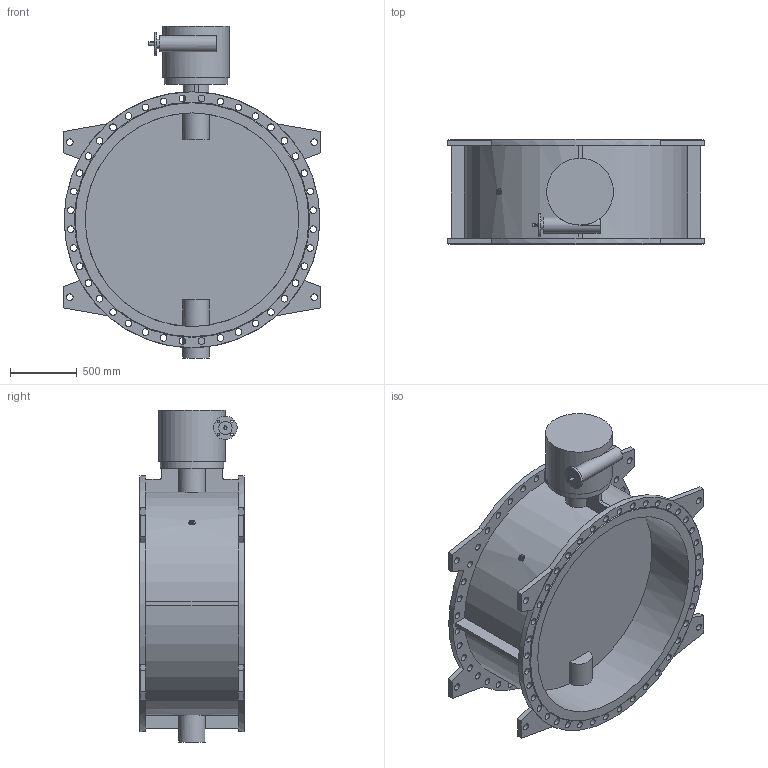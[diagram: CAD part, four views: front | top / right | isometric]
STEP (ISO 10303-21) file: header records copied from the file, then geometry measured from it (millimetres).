
FILE_DESCRIPTION(('STEP AP203'), '1');
FILE_NAME('Çàòâîð 023F.Z DN1600 PN10_ð-ð_ôë', '', ('UNSPECIFIED'), ('UNSPECIFIED'), 'ASCON STEP Converter 1.6', 'ASCON Math Kernel', '');
FILE_SCHEMA(('CONFIG_CONTROL_DESIGN'));
Length unit declared in the file: millimetre
Bounding box: 1930 x 790 x 2485 mm (x, y, z)
Volume: 536206472.7 mm3; surface area: 17780975.3 mm2
Topology: 1 solids, 1 shells, 243 faces, 628 edges, 418 vertices
Faces by surface type: cylinder 138, plane 103, cone 2
Full cylindrical faces by diameter (mm): 18 x4, 24 x1, 33 x8, 39 x8, 50 x88, 70 x1, 100 x1, 120 x1, 175 x1, 200 x1, 475 x1, 500 x1, 1600 x2, 1915 x2
Entity records: 10311 total; most frequent: CARTESIAN_POINT 2280, DIRECTION 1261, ORIENTED_EDGE 1004, EDGE_LOOP 581, AXIS2_PLACEMENT_3D 535, EDGE_CURVE 502, VERTEX_POINT 417, FACE_BOUND 342
